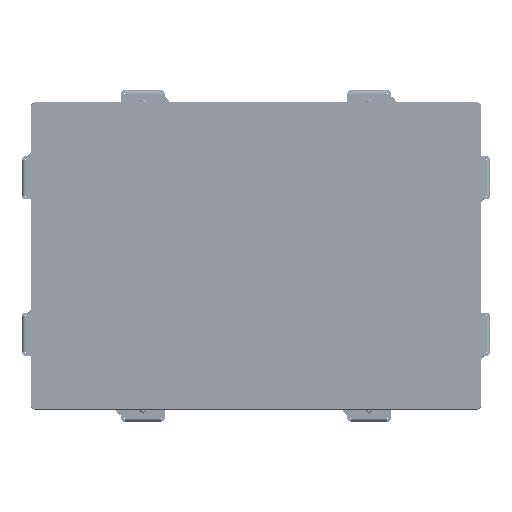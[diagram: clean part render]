
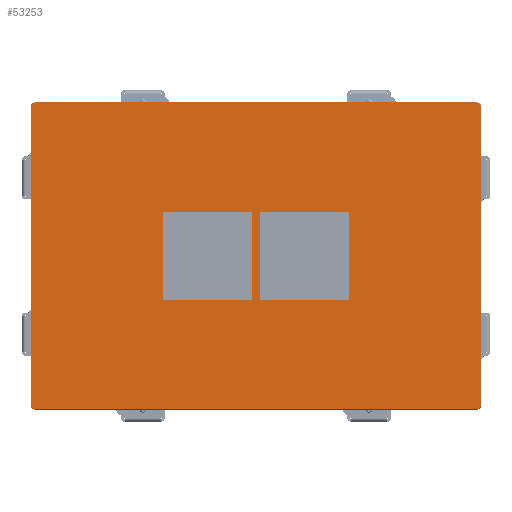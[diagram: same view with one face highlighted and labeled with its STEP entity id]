
A CAD part, top view. The second image highlights one B-rep face of the part: STEP entity #53253.
In plain terms, the highlighted planar face has unit normal (0, 0, 1).
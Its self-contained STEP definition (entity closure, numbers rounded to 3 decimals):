
#397 = CARTESIAN_POINT ( 'NONE',  ( -129.149, -85.5, 5.865 ) ) ;
#2072 = ORIENTED_EDGE ( 'NONE', *, *, #71191, .F. ) ;
#6675 = LINE ( 'NONE', #397, #441661 ) ;
#8401 = CARTESIAN_POINT ( 'NONE',  ( -53.34, 25.4, 5.865 ) ) ;
#8649 = CARTESIAN_POINT ( 'NONE',  ( 129.149, -85.5, 5.865 ) ) ;
#10455 = LINE ( 'NONE', #44077, #364767 ) ;
#12505 = CARTESIAN_POINT ( 'NONE',  ( -126.5, 85.5, 5.865 ) ) ;
#13840 = ORIENTED_EDGE ( 'NONE', *, *, #18591, .F. ) ;
#18591 = EDGE_CURVE ( 'NONE', #385625, #380556, #182648, .T. ) ;
#27609 = EDGE_CURVE ( 'NONE', #314713, #84013, #101257, .T. ) ;
#28145 = FACE_OUTER_BOUND ( 'NONE', #252079, .T. ) ;
#29894 = LINE ( 'NONE', #399873, #303823 ) ;
#31609 = VERTEX_POINT ( 'NONE', #186424 ) ;
#31782 = AXIS2_PLACEMENT_3D ( 'NONE', #213691, #141669, #107099 ) ;
#38121 = DIRECTION ( 'NONE',  ( -1., 0., 0. ) ) ;
#44077 = CARTESIAN_POINT ( 'NONE',  ( 126.5, 88.149, 5.865 ) ) ;
#44080 = DIRECTION ( 'NONE',  ( 1., 0., 0. ) ) ;
#45416 = EDGE_CURVE ( 'NONE', #401863, #314713, #417378, .T. ) ;
#49730 = VECTOR ( 'NONE', #230458, 1000. ) ;
#50365 = CARTESIAN_POINT ( 'NONE',  ( -2.54, 0., 5.865 ) ) ;
#50401 = PLANE ( 'NONE',  #242437 ) ;
#53253 = ADVANCED_FACE ( 'NONE', ( #135716, #436397, #28145 ), #50401, .T. ) ;
#58217 = VERTEX_POINT ( 'NONE', #240702 ) ;
#58584 = VECTOR ( 'NONE', #342471, 1000. ) ;
#64021 = DIRECTION ( 'NONE',  ( 0., -1., 0. ) ) ;
#65851 = DIRECTION ( 'NONE',  ( -1., 0., 0. ) ) ;
#71191 = EDGE_CURVE ( 'NONE', #380556, #405336, #237449, .T. ) ;
#73710 = ORIENTED_EDGE ( 'NONE', *, *, #84910, .T. ) ;
#74073 = EDGE_CURVE ( 'NONE', #84013, #31609, #74686, .T. ) ;
#74686 = CIRCLE ( 'NONE', #31782, 2.649 ) ;
#76143 = LINE ( 'NONE', #8649, #226418 ) ;
#76658 = CARTESIAN_POINT ( 'NONE',  ( 129.149, 85.5, 5.865 ) ) ;
#80393 = ORIENTED_EDGE ( 'NONE', *, *, #140353, .T. ) ;
#80549 = DIRECTION ( 'NONE',  ( 1., 0., 0. ) ) ;
#82951 = ORIENTED_EDGE ( 'NONE', *, *, #425793, .T. ) ;
#84013 = VERTEX_POINT ( 'NONE', #128039 ) ;
#84910 = EDGE_CURVE ( 'NONE', #400389, #401863, #6675, .T. ) ;
#90518 = CARTESIAN_POINT ( 'NONE',  ( -126.5, -85.5, 5.865 ) ) ;
#96596 = CARTESIAN_POINT ( 'NONE',  ( 2.54, 0., 5.865 ) ) ;
#101257 = LINE ( 'NONE', #239314, #149627 ) ;
#107099 = DIRECTION ( 'NONE',  ( 1., 0., 0. ) ) ;
#108491 = EDGE_CURVE ( 'NONE', #160507, #124231, #211237, .T. ) ;
#111567 = DIRECTION ( 'NONE',  ( 0., 0., 1. ) ) ;
#114004 = LINE ( 'NONE', #268523, #377034 ) ;
#115310 = ORIENTED_EDGE ( 'NONE', *, *, #168481, .F. ) ;
#119397 = DIRECTION ( 'NONE',  ( 0., 1., 0. ) ) ;
#124231 = VERTEX_POINT ( 'NONE', #400520 ) ;
#126395 = DIRECTION ( 'NONE',  ( 1., 0., 0. ) ) ;
#127320 = EDGE_CURVE ( 'NONE', #267358, #146464, #190494, .T. ) ;
#128039 = CARTESIAN_POINT ( 'NONE',  ( 126.5, -88.149, 5.865 ) ) ;
#128550 = VERTEX_POINT ( 'NONE', #76658 ) ;
#135716 = FACE_BOUND ( 'NONE', #398269, .T. ) ;
#139879 = AXIS2_PLACEMENT_3D ( 'NONE', #90518, #327572, #401192 ) ;
#140353 = EDGE_CURVE ( 'NONE', #171385, #400389, #173522, .T. ) ;
#141669 = DIRECTION ( 'NONE',  ( 0., 0., 1. ) ) ;
#146464 = VERTEX_POINT ( 'NONE', #433997 ) ;
#149627 = VECTOR ( 'NONE', #234904, 1000. ) ;
#149926 = LINE ( 'NONE', #96596, #58584 ) ;
#160507 = VERTEX_POINT ( 'NONE', #202538 ) ;
#168481 = EDGE_CURVE ( 'NONE', #124231, #267358, #114004, .T. ) ;
#171385 = VERTEX_POINT ( 'NONE', #441922 ) ;
#173522 = CIRCLE ( 'NONE', #265398, 2.649 ) ;
#182648 = LINE ( 'NONE', #342327, #236426 ) ;
#186424 = CARTESIAN_POINT ( 'NONE',  ( 129.149, -85.5, 5.865 ) ) ;
#186675 = CARTESIAN_POINT ( 'NONE',  ( 126.5, 85.5, 5.865 ) ) ;
#190494 = LINE ( 'NONE', #311683, #287063 ) ;
#202538 = CARTESIAN_POINT ( 'NONE',  ( -2.54, -25.4, 5.865 ) ) ;
#211237 = LINE ( 'NONE', #50365, #329611 ) ;
#213691 = CARTESIAN_POINT ( 'NONE',  ( 126.5, -85.5, 5.865 ) ) ;
#217604 = ORIENTED_EDGE ( 'NONE', *, *, #127320, .F. ) ;
#217630 = ORIENTED_EDGE ( 'NONE', *, *, #108491, .F. ) ;
#223961 = ORIENTED_EDGE ( 'NONE', *, *, #249746, .F. ) ;
#226418 = VECTOR ( 'NONE', #251726, 1000. ) ;
#228871 = EDGE_CURVE ( 'NONE', #239435, #385625, #29894, .T. ) ;
#230458 = DIRECTION ( 'NONE',  ( -1., 0., 0. ) ) ;
#232604 = ORIENTED_EDGE ( 'NONE', *, *, #322767, .F. ) ;
#234405 = CARTESIAN_POINT ( 'NONE',  ( 0., -25.4, 5.865 ) ) ;
#234904 = DIRECTION ( 'NONE',  ( 1., 0., 0. ) ) ;
#236426 = VECTOR ( 'NONE', #270567, 1000. ) ;
#237449 = LINE ( 'NONE', #436142, #49730 ) ;
#239314 = CARTESIAN_POINT ( 'NONE',  ( 126.5, -88.149, 5.865 ) ) ;
#239435 = VERTEX_POINT ( 'NONE', #390849 ) ;
#240702 = CARTESIAN_POINT ( 'NONE',  ( 126.5, 88.149, 5.865 ) ) ;
#242437 = AXIS2_PLACEMENT_3D ( 'NONE', #425761, #254501, #80549 ) ;
#243507 = DIRECTION ( 'NONE',  ( 0., -1., 0. ) ) ;
#244102 = AXIS2_PLACEMENT_3D ( 'NONE', #186675, #423857, #392260 ) ;
#248789 = ORIENTED_EDGE ( 'NONE', *, *, #45416, .T. ) ;
#249746 = EDGE_CURVE ( 'NONE', #405336, #239435, #149926, .T. ) ;
#251726 = DIRECTION ( 'NONE',  ( 0., 1., 0. ) ) ;
#252079 = EDGE_LOOP ( 'NONE', ( #330235, #82951, #302300, #374404, #80393, #73710, #248789, #288896 ) ) ;
#254501 = DIRECTION ( 'NONE',  ( 0., 0., 1. ) ) ;
#265398 = AXIS2_PLACEMENT_3D ( 'NONE', #12505, #111567, #44080 ) ;
#267358 = VERTEX_POINT ( 'NONE', #8401 ) ;
#268523 = CARTESIAN_POINT ( 'NONE',  ( 0., 25.4, 5.865 ) ) ;
#270567 = DIRECTION ( 'NONE',  ( 0., 1., 0. ) ) ;
#273365 = ORIENTED_EDGE ( 'NONE', *, *, #228871, .F. ) ;
#281670 = CARTESIAN_POINT ( 'NONE',  ( -129.149, 85.5, 5.865 ) ) ;
#287063 = VECTOR ( 'NONE', #64021, 1000. ) ;
#288896 = ORIENTED_EDGE ( 'NONE', *, *, #27609, .T. ) ;
#295224 = CARTESIAN_POINT ( 'NONE',  ( 53.34, 25.4, 5.865 ) ) ;
#295979 = EDGE_CURVE ( 'NONE', #128550, #58217, #431235, .T. ) ;
#302300 = ORIENTED_EDGE ( 'NONE', *, *, #295979, .T. ) ;
#303823 = VECTOR ( 'NONE', #431412, 1000. ) ;
#304964 = EDGE_CURVE ( 'NONE', #58217, #171385, #10455, .T. ) ;
#308411 = CARTESIAN_POINT ( 'NONE',  ( -126.5, -88.149, 5.865 ) ) ;
#311683 = CARTESIAN_POINT ( 'NONE',  ( -53.34, 0., 5.865 ) ) ;
#314713 = VERTEX_POINT ( 'NONE', #308411 ) ;
#321801 = CARTESIAN_POINT ( 'NONE',  ( 2.54, 25.4, 5.865 ) ) ;
#322767 = EDGE_CURVE ( 'NONE', #146464, #160507, #414477, .T. ) ;
#327572 = DIRECTION ( 'NONE',  ( 0., 0., 1. ) ) ;
#329611 = VECTOR ( 'NONE', #119397, 1000. ) ;
#330235 = ORIENTED_EDGE ( 'NONE', *, *, #74073, .T. ) ;
#338677 = CARTESIAN_POINT ( 'NONE',  ( -129.149, -85.5, 5.865 ) ) ;
#342327 = CARTESIAN_POINT ( 'NONE',  ( 53.34, 0., 5.865 ) ) ;
#342471 = DIRECTION ( 'NONE',  ( 0., -1., 0. ) ) ;
#349669 = VECTOR ( 'NONE', #126395, 1000. ) ;
#352738 = CARTESIAN_POINT ( 'NONE',  ( 53.34, -25.4, 5.865 ) ) ;
#364767 = VECTOR ( 'NONE', #38121, 1000. ) ;
#374404 = ORIENTED_EDGE ( 'NONE', *, *, #304964, .T. ) ;
#377034 = VECTOR ( 'NONE', #65851, 1000. ) ;
#380556 = VERTEX_POINT ( 'NONE', #295224 ) ;
#385625 = VERTEX_POINT ( 'NONE', #352738 ) ;
#390849 = CARTESIAN_POINT ( 'NONE',  ( 2.54, -25.4, 5.865 ) ) ;
#392260 = DIRECTION ( 'NONE',  ( 1., 0., 0. ) ) ;
#398269 = EDGE_LOOP ( 'NONE', ( #2072, #13840, #273365, #223961 ) ) ;
#399873 = CARTESIAN_POINT ( 'NONE',  ( 0., -25.4, 5.865 ) ) ;
#400389 = VERTEX_POINT ( 'NONE', #281670 ) ;
#400520 = CARTESIAN_POINT ( 'NONE',  ( -2.54, 25.4, 5.865 ) ) ;
#401192 = DIRECTION ( 'NONE',  ( 1., 0., 0. ) ) ;
#401863 = VERTEX_POINT ( 'NONE', #338677 ) ;
#405336 = VERTEX_POINT ( 'NONE', #321801 ) ;
#414477 = LINE ( 'NONE', #234405, #349669 ) ;
#417378 = CIRCLE ( 'NONE', #139879, 2.649 ) ;
#423857 = DIRECTION ( 'NONE',  ( 0., 0., 1. ) ) ;
#425761 = CARTESIAN_POINT ( 'NONE',  ( 126.5, -85.5, 5.865 ) ) ;
#425793 = EDGE_CURVE ( 'NONE', #31609, #128550, #76143, .T. ) ;
#431235 = CIRCLE ( 'NONE', #244102, 2.649 ) ;
#431412 = DIRECTION ( 'NONE',  ( 1., 0., 0. ) ) ;
#433997 = CARTESIAN_POINT ( 'NONE',  ( -53.34, -25.4, 5.865 ) ) ;
#436142 = CARTESIAN_POINT ( 'NONE',  ( 0., 25.4, 5.865 ) ) ;
#436397 = FACE_BOUND ( 'NONE', #443982, .T. ) ;
#441661 = VECTOR ( 'NONE', #243507, 1000. ) ;
#441922 = CARTESIAN_POINT ( 'NONE',  ( -126.5, 88.149, 5.865 ) ) ;
#443982 = EDGE_LOOP ( 'NONE', ( #115310, #217630, #232604, #217604 ) ) ;
